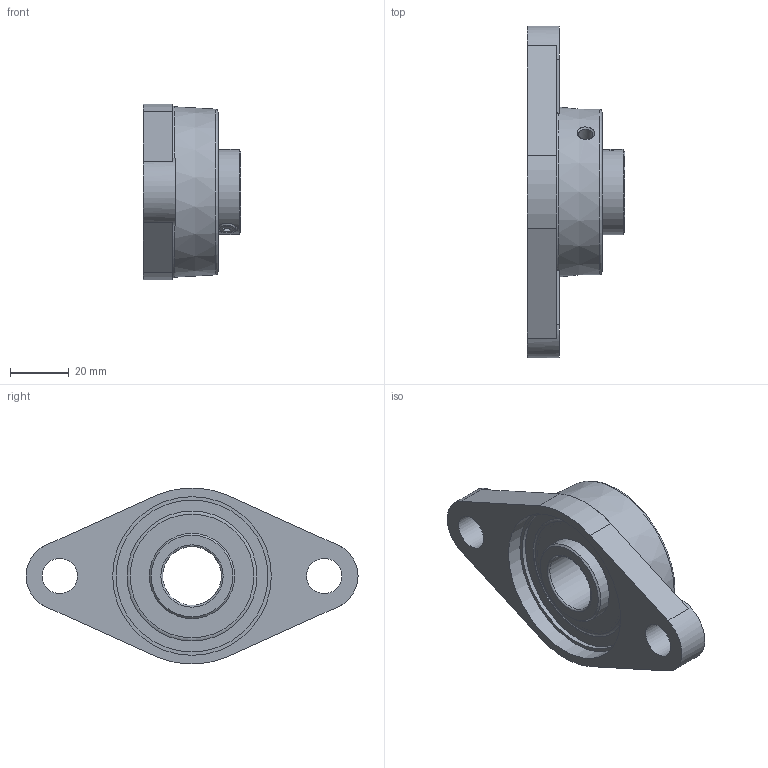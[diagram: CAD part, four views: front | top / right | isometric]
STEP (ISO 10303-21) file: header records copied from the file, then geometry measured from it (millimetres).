
FILE_DESCRIPTION (( 'STEP AP203' ), '1' );
FILE_NAME ('UCFL-204.STEP', '2019-03-08T12:13:31', ( '' ), ( '' ), 'SwSTEP 2.0', 'SolidWorks 2017', '' );
FILE_SCHEMA (( 'CONFIG_CONTROL_DESIGN' ));
Length unit declared in the file: millimetre
Products named in the file (1): UCFL-204
Bounding box: 33.3 x 113 x 59.78 mm (x, y, z)
Volume: 56571.4 mm3; surface area: 23897.9 mm2
Topology: 1 solids, 3 shells, 93 faces, 210 edges, 141 vertices
Faces by surface type: plane 43, cylinder 24, cone 10, torus 9, sphere 7
Full cylindrical faces by diameter (mm): 0.8 x4, 4.918 x1, 6 x3, 12 x2, 20 x1, 29 x4, 40.314 x2, 51.7 x1, 54 x2
Entity records: 2841 total; most frequent: CARTESIAN_POINT 918, DIRECTION 384, ORIENTED_EDGE 304, AXIS2_PLACEMENT_3D 160, EDGE_LOOP 158, EDGE_CURVE 152, VERTEX_POINT 120, FACE_OUTER_BOUND 120
